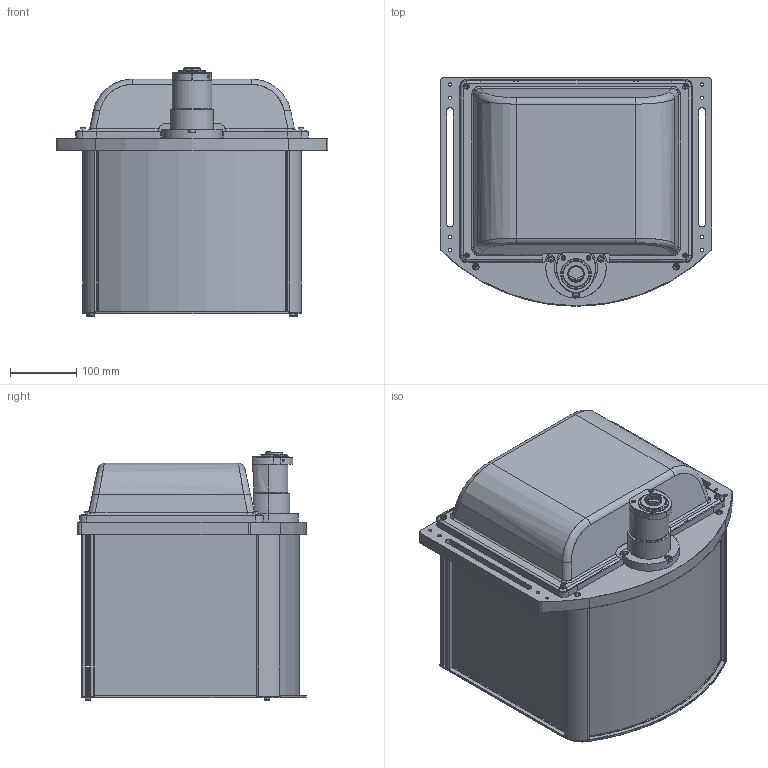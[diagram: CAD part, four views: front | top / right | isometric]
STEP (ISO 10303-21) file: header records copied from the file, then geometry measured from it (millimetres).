
FILE_DESCRIPTION(('LS-TCL-0354'),'2;1');
FILE_NAME('LS-TCL-0354.stp','2026-10-15T21:56:01',('LumaSpec Vision'),('LumaSpec Vision'),'LumaSpec Vision','LumaSpec Vision','');
FILE_SCHEMA(('AUTOMOTIVE_DESIGN { 1 0 10303 214 1 1 1 1 }'));
Length unit declared in the file: millimetre
Products named in the file (489): LumaSpec Vision
Assembly tree (488 placements, depth 2):
  LumaSpec Vision
    LumaSpec Vision
    LumaSpec Vision
    LumaSpec Vision
    LumaSpec Vision
    LumaSpec Vision
    LumaSpec Vision
    LumaSpec Vision
    LumaSpec Vision
    LumaSpec Vision
    LumaSpec Vision
    LumaSpec Vision
    LumaSpec Vision
    LumaSpec Vision
    LumaSpec Vision
    LumaSpec Vision
    LumaSpec Vision
    LumaSpec Vision
    LumaSpec Vision
    LumaSpec Vision
    LumaSpec Vision
    LumaSpec Vision
    LumaSpec Vision
    LumaSpec Vision
    LumaSpec Vision
    LumaSpec Vision
    LumaSpec Vision
    LumaSpec Vision
    LumaSpec Vision
    LumaSpec Vision
    LumaSpec Vision
    LumaSpec Vision
    LumaSpec Vision
    LumaSpec Vision
    LumaSpec Vision
    LumaSpec Vision
    LumaSpec Vision
    LumaSpec Vision
    LumaSpec Vision
    LumaSpec Vision
    LumaSpec Vision
    LumaSpec Vision
    LumaSpec Vision
    LumaSpec Vision
    LumaSpec Vision
    LumaSpec Vision
    LumaSpec Vision
    LumaSpec Vision
    LumaSpec Vision
    LumaSpec Vision
    LumaSpec Vision
    LumaSpec Vision
    LumaSpec Vision
    LumaSpec Vision
    LumaSpec Vision
    LumaSpec Vision
    LumaSpec Vision
    LumaSpec Vision
    LumaSpec Vision
    LumaSpec Vision
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Bounding box: 410.34 x 344.11 x 374.54 mm (x, y, z)
Surface area: 858765.2 mm2 (no closed solid volume)
Topology: 0 solids, 488 shells, 488 faces, 7511 edges, 7511 vertices
Faces by surface type: bspline 264, revolution 224
Entity records: 127695 total; most frequent: CARTESIAN_POINT 50296, B_SPLINE_CURVE_WITH_KNOTS 12936, ORIENTED_EDGE 7511, EDGE_CURVE 7511, VERTEX_POINT 7511, SURFACE_CURVE 7511, PCURVE 7511, DEFINITIONAL_REPRESENTATION 7511
